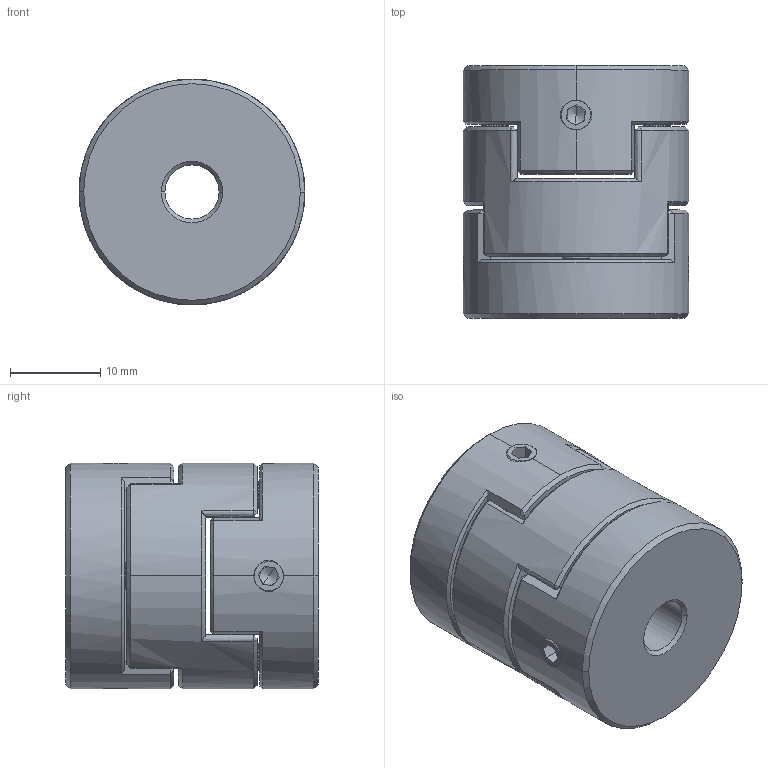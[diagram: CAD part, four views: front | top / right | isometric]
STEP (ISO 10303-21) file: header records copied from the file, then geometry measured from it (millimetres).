
FILE_DESCRIPTION (( 'STEP AP203' ), '1' );
FILE_NAME ('LZ-D-D25L28-6-6.STEP', '2021-10-30T02:09:26', ( '' ), ( '' ), 'SwSTEP 2.0', 'SolidWorks 2018', '' );
FILE_SCHEMA (( 'CONFIG_CONTROL_DESIGN' ));
Length unit declared in the file: millimetre
Products named in the file (1): LZ-D-D25L28-6-6
Bounding box: 25 x 28 x 25 mm (x, y, z)
Volume: 12030.1 mm3; surface area: 5541.4 mm2
Topology: 1 solids, 1 shells, 218 faces, 574 edges, 348 vertices
Faces by surface type: plane 88, cone 54, bspline 50, cylinder 26
Entity records: 9876 total; most frequent: CARTESIAN_POINT 4952, ORIENTED_EDGE 1132, DIRECTION 834, EDGE_CURVE 566, VERTEX_POINT 348, AXIS2_PLACEMENT_3D 303, EDGE_LOOP 234, VECTOR 228
